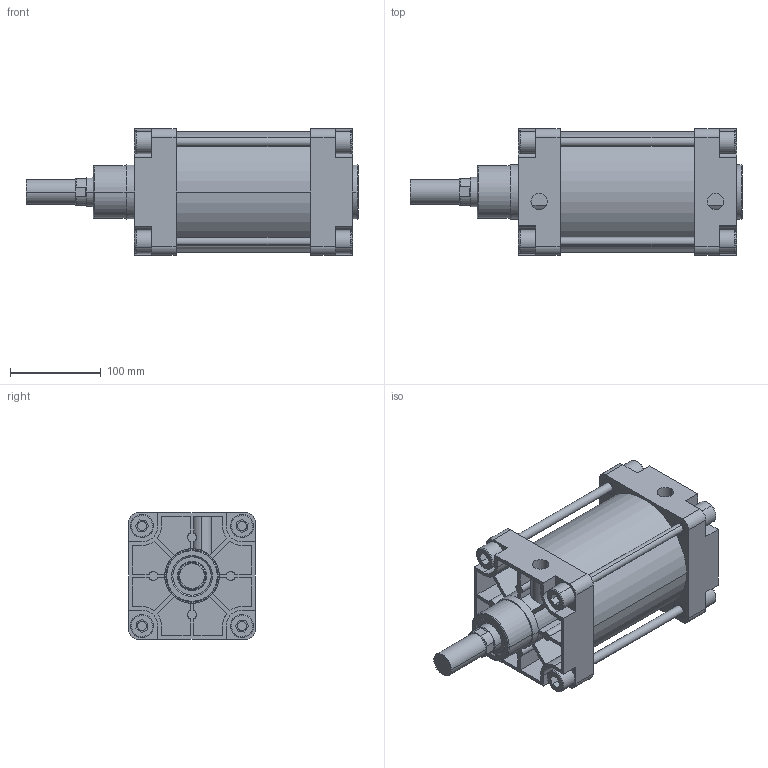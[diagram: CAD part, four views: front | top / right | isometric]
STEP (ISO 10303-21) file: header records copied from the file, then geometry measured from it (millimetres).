
FILE_DESCRIPTION(('CATIA V5 STEP Exchange'),'2;1');
FILE_NAME('D:\stp file for catalog\PNC\125\PNC 125-32-80.stp','2015-10-13T13:29:33+00:00',('none'),('none'),'Version 5-6 Release 2012','CATIA V5 STEP AP203','none');
FILE_SCHEMA(('CONFIG_CONTROL_DESIGN'));
Length unit declared in the file: millimetre
Products named in the file (1): PNC 125-32-80-00
Assembly tree (2 placements, depth 2):
  PNC 125-32-80-00
    #58
    #14773
Bounding box: 365 x 139 x 139 mm (x, y, z)
Volume: 2462447.9 mm3; surface area: 456008.5 mm2
Topology: 7 solids, 11 shells, 557 faces, 1420 edges, 938 vertices
Faces by surface type: plane 337, cylinder 174, torus 24, extrusion 16, cone 6
Entity records: 15682 total; most frequent: CARTESIAN_POINT 3254, ORIENTED_EDGE 2840, DIRECTION 1937, EDGE_CURVE 1420, VERTEX_POINT 938, VECTOR 903, LINE 887, AXIS2_PLACEMENT_3D 735
